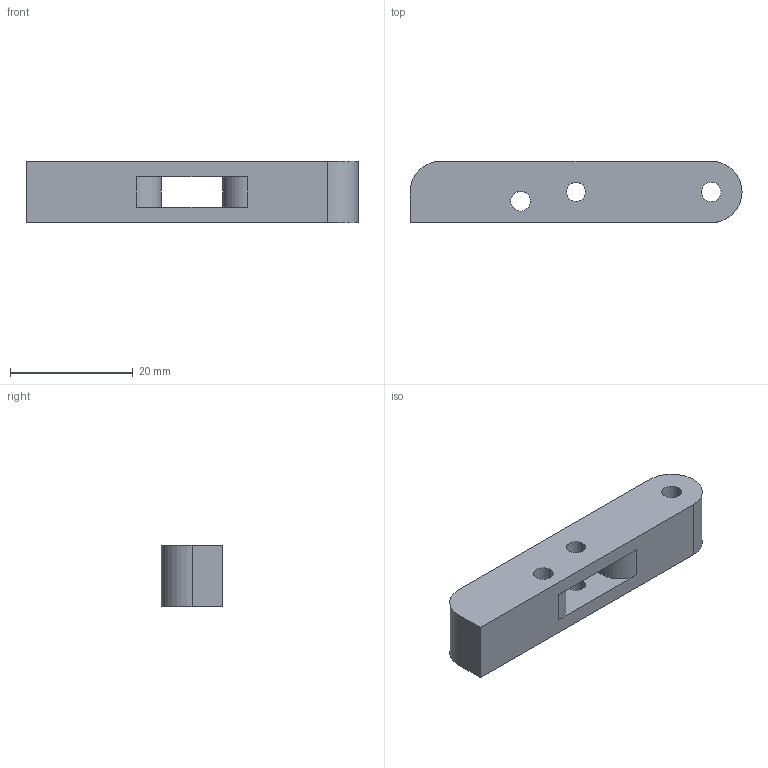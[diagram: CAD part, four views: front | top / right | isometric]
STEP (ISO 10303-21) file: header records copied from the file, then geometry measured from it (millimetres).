
FILE_DESCRIPTION(/* description */ ('Alibre Inc.'),/* implementation_level */ '2;1');
FILE_NAME(/* name */ 'export-9DE53141-564A-4D3D-980A-1B2074D7E9D7',/* time_stamp */ '2023-05-25T19:39:26+01:00',/* author */ (''),/* organization */ (''),/* preprocessor_version */ 'ST-DEVELOPER v17',/* originating_system */ 'Alibre',/* authorisation */ '');
FILE_SCHEMA (('AUTOMOTIVE_DESIGN'));
Length unit declared in the file: millimetre
Bounding box: 54 x 10 x 10 mm (x, y, z)
Volume: 4471.8 mm3; surface area: 2644 mm2
Topology: 1 solids, 1 shells, 19 faces, 51 edges, 34 vertices
Faces by surface type: cylinder 10, plane 9
Full cylindrical faces by diameter (mm): 3.1 x2, 3.2 x2
Entity records: 606 total; most frequent: CARTESIAN_POINT 99, ORIENTED_EDGE 94, DIRECTION 94, EDGE_CURVE 47, AXIS2_PLACEMENT_3D 38, VERTEX_POINT 34, EDGE_LOOP 33, FACE_BOUND 33
